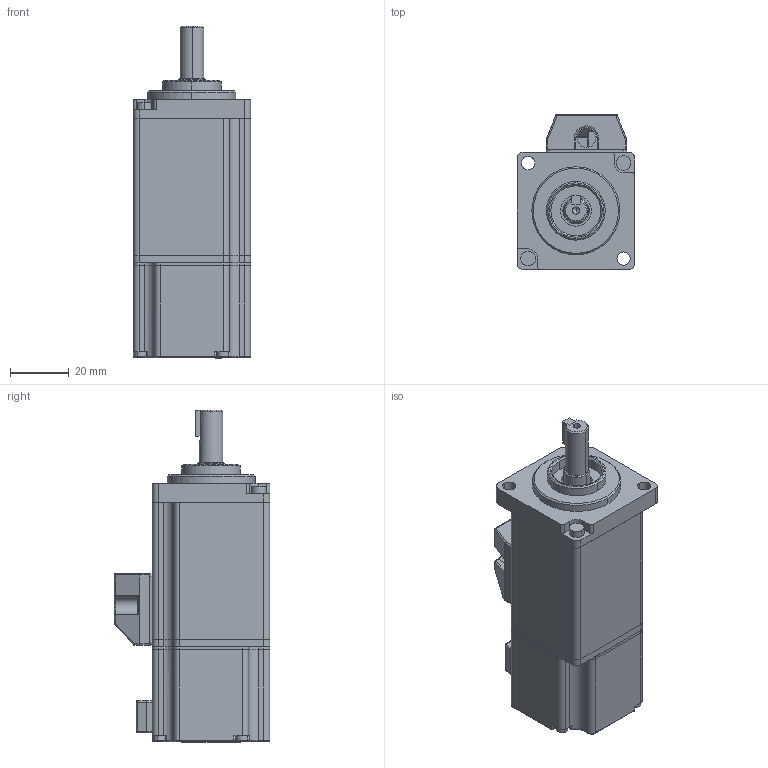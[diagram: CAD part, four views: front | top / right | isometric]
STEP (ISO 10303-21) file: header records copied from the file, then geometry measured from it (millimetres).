
FILE_DESCRIPTION (( 'STEP AP203' ), '1' );
FILE_NAME ('z40-100W_final_step.STEP', '2010-12-08T04:12:35', ( '' ), ( '' ), 'SwSTEP 2.0', 'SolidWorks 2011', '' );
FILE_SCHEMA (( 'CONFIG_CONTROL_DESIGN' ));
Length unit declared in the file: millimetre
Products named in the file (1): z40-100W_final_step
Bounding box: 40.1 x 53 x 113.1 mm (x, y, z)
Volume: 52406.7 mm3; surface area: 44791.1 mm2
Topology: 14 solids, 14 shells, 761 faces, 1918 edges, 1203 vertices
Faces by surface type: cylinder 368, plane 268, bspline 84, cone 37, torus 4
Entity records: 26106 total; most frequent: CARTESIAN_POINT 7892, DIRECTION 3820, ORIENTED_EDGE 3792, EDGE_CURVE 1896, AXIS2_PLACEMENT_3D 1444, VERTEX_POINT 1203, LINE 932, VECTOR 932
